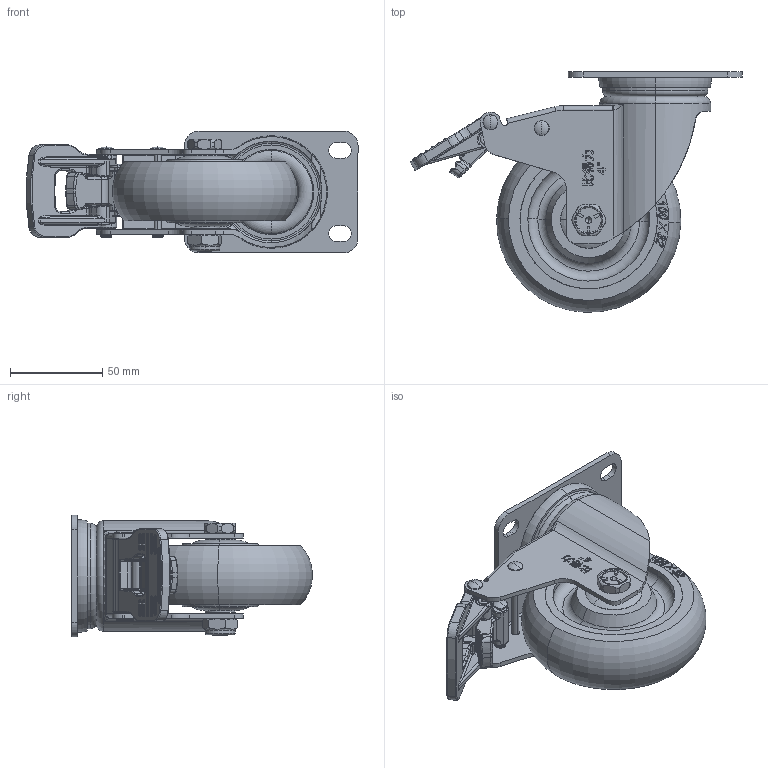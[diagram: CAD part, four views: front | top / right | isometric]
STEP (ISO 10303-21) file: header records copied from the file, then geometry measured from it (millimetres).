
FILE_DESCRIPTION (( 'STEP AP203' ), '1' );
FILE_NAME ('4寸平底万向刹车.STEP', '2024-01-18T09:15:50', ( '微软用户' ), ( '微软中国' ), 'SwSTEP 2.0', 'SolidWorks 2008', '' );
FILE_SCHEMA (( 'CONFIG_CONTROL_DESIGN' ));
Length unit declared in the file: millimetre
Products named in the file (11): 2023-3-8  中型4寸（AB刹）支架B_默认; 3.9｡ﾁ30ﾎｲｿﾗｶ､_ﾄｬﾈﾏ; M10-55蹟裝; M10蹟譫; 4渡す菁勀砃价陬; 刹车手柄ON_默认; 解刹手柄OFF   B_默认; 3.9｡ﾁ49ﾎｲｿﾗｶ､_ﾄｬﾈﾏ; 3.9｡ﾁ39ﾎｲｿﾗｶ､_ﾄｬﾈﾏ; 底板_默认; 100×32轮子_默认
Assembly tree (11 placements, depth 2):
  4渡す菁勀砃价陬
    3.9｡ﾁ49ﾎｲｿﾗｶ､_ﾄｬﾈﾏ  x2
    刹车手柄ON_默认
    M10-55蹟裝
    2023-3-8  中型4寸（AB刹）支架B_默认
    解刹手柄OFF   B_默认
    100×32轮子_默认
    M10蹟譫
    底板_默认
    3.9｡ﾁ30ﾎｲｿﾗｶ､_ﾄｬﾈﾏ
    3.9｡ﾁ39ﾎｲｿﾗｶ､_ﾄｬﾈﾏ
Bounding box: 179.79 x 130.31 x 66 mm (x, y, z)
Volume: 324387 mm3; surface area: 105537 mm2
Topology: 11 solids, 11 shells, 1184 faces, 2860 edges, 1731 vertices
Faces by surface type: cylinder 405, plane 318, bspline 293, torus 120, cone 34, sphere 14
Entity records: 49152 total; most frequent: CARTESIAN_POINT 22973, ORIENTED_EDGE 5578, DIRECTION 4687, EDGE_CURVE 2789, AXIS2_PLACEMENT_3D 1764, VERTEX_POINT 1709, EDGE_LOOP 1270, ADVANCED_FACE 1166
